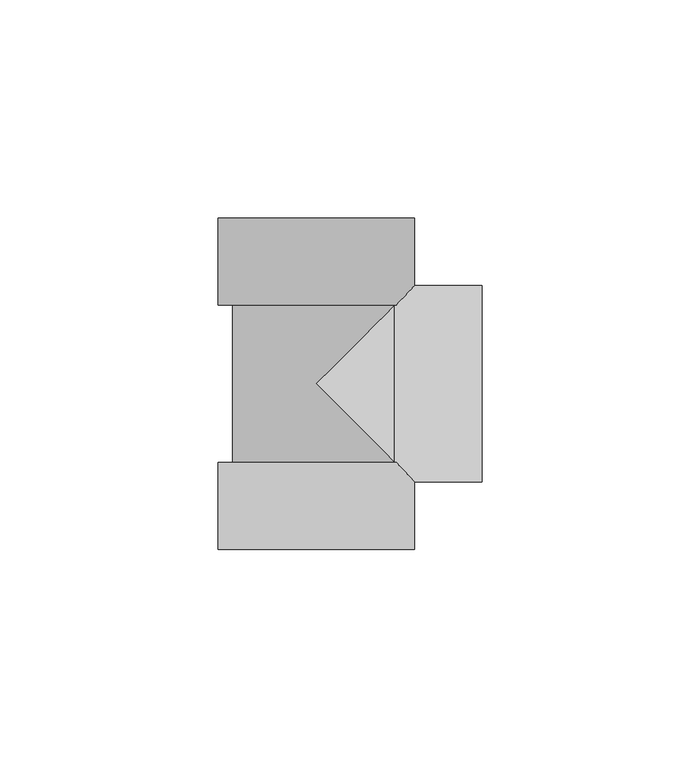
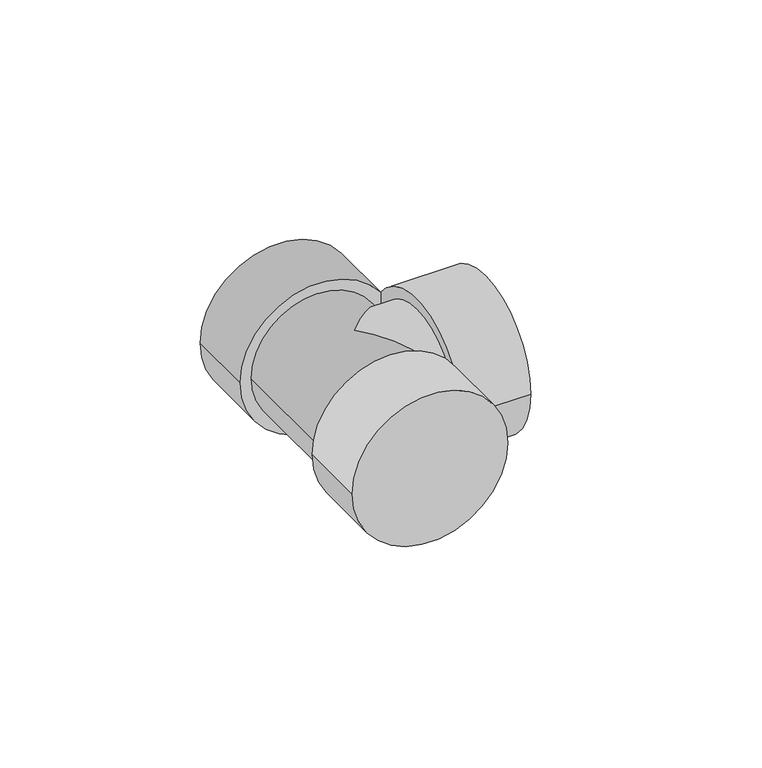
"""IFC4 building model written with IfcOpenShell, lengths in millimetres: pipe fitting geometry, 01011003 : Tes 90º."""

from ifc_helpers import new_model, si_unit, point, frame, origin, origin_2d, place, context, project, spatial, circle_curve, ellipse_curve, trimmed, segment, composite_curve, outline, extrude, source, transform, mapped, element, save
from ifc_brep_helpers import plane_surface, cylinder_surface, advanced_brep


def pipe_fitting_b89437e4(model_context):
    return source(origin(), model_context, "Body", "SolidModel", [
        advanced_brep(
        [(-19.125, 20.0, 0.0), (19.125, 20.0, 0.0), (-19.125, -20.0, 0.0), (19.125, -20.0, 0.0), (19.125, -19.125, 0.0), (0.0, 0.0, 19.125), (19.125, 19.125, 0.0), (0.0, 0.0, -19.125), (20.0, 19.125, 0.0), (20.0, -19.125, 0.0)],
        [
            (0, 1, circle_curve(frame((0.0, 20.0, 0.0), z_axis=(0.0, 1.0, 0.0), x_axis=(1.0, 0.0, 0.0)), 19.125)),
            (1, 0, circle_curve(frame((0.0, 20.0, 0.0), z_axis=(0.0, 1.0, 0.0), x_axis=(1.0, 0.0, 0.0)), 19.125)),
            (2, 3, circle_curve(frame((0.0, -20.0, 0.0), z_axis=(0.0, -1.0, 0.0), x_axis=(1.0, 0.0, 0.0)), 19.125)),
            (3, 2, circle_curve(frame((0.0, -20.0, 0.0), z_axis=(0.0, -1.0, 0.0), x_axis=(1.0, 0.0, 0.0)), 19.125)),
            (0, 2),
            (3, 4),
            (4, 5, ellipse_curve(frame((0.0, 0.0, 0.0), z_axis=(-0.7071067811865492, -0.7071067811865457, 0.0), x_axis=(-0.7071067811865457, 0.7071067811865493, 0.0)), 27.0468344, 19.125)),
            (5, 6, ellipse_curve(frame((0.0, 0.0, 0.0), z_axis=(-0.7071067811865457, 0.7071067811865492, 0.0), x_axis=(0.7071067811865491, 0.7071067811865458, 0.0)), 27.0468344, 19.125)),
            (6, 1),
            (6, 7, ellipse_curve(frame((0.0, 0.0, 0.0), z_axis=(-0.7071067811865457, 0.7071067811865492, 0.0), x_axis=(0.7071067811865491, 0.7071067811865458, 0.0)), 27.0468344, 19.125)),
            (7, 4, ellipse_curve(frame((0.0, 0.0, 0.0), z_axis=(-0.7071067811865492, -0.7071067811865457, 0.0), x_axis=(-0.7071067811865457, 0.7071067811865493, 0.0)), 27.0468344, 19.125)),
            (8, 9, circle_curve(frame((20.0, 0.0, 0.0), z_axis=(1.0, 0.0, 0.0), x_axis=(0.0, -1.0, 0.0)), 19.125)),
            (9, 8, circle_curve(frame((20.0, 0.0, 0.0), z_axis=(1.0, 0.0, 0.0), x_axis=(0.0, -1.0, 0.0)), 19.125)),
            (8, 6),
            (4, 9),
        ],
        [
            plane_surface(frame((0.0, 20.0, 0.0), z_axis=(0.0, 1.0, 0.0), x_axis=(0.0, 0.0, 1.0))),
            plane_surface(frame((0.0, -20.0, 0.0), z_axis=(0.0, -1.0, 0.0), x_axis=(0.0, 0.0, 1.0))),
            cylinder_surface(frame((0.0, 20.0, 0.0), z_axis=(0.0, 1.0, 0.0), x_axis=(1.0, 0.0, 0.0)), 19.125),
            plane_surface(frame((20.0, 0.0, 0.0), z_axis=(1.0, 0.0, 0.0), x_axis=(0.0, 0.0, 1.0))),
            cylinder_surface(frame((20.0, 0.0, 0.0), z_axis=(1.0, 0.0, 0.0), x_axis=(0.0, -1.0, 0.0)), 19.125),
        ],
        [
            (0, [[1, 2]]),
            (1, [[3, 4]]),
            (2, [[-1, 5, -4, 6, 7, 8, 9]]),
            (2, [[-2, -9, 10, 11, -6, -3, -5]]),
            (3, [[12, 13]]),
            (4, [[-12, 14, -8, -7, 15]]),
            (4, [[-13, -15, -11, -10, -14]]),
        ],
    ),
        extrude(outline(composite_curve([segment(trimmed(circle_curve(origin_2d(), 22.5), [point((0.0, -22.5))], [point((0.0, 22.5))], False, "CARTESIAN"), True, "CONTINUOUS"), segment(trimmed(circle_curve(origin_2d(), 22.5), [point((0.0, 22.5))], [point((0.0, -22.5))], False, "CARTESIAN"), True, "CONTINUOUS")], self_intersect=False)), frame((0.0, 18.0, 0.0), z_axis=(0.0, 1.0, 0.0), x_axis=(0.0, 0.0, 1.0)), (0.0, 0.0, 1.0), 20.0),
        extrude(outline(composite_curve([segment(trimmed(circle_curve(origin_2d(), 22.5), [point((0.0, 22.5))], [point((0.0, -22.5))], False, "CARTESIAN"), True, "CONTINUOUS"), segment(trimmed(circle_curve(origin_2d(), 22.5), [point((0.0, -22.5))], [point((0.0, 22.5))], False, "CARTESIAN"), True, "CONTINUOUS")], self_intersect=False)), frame((0.0, -38.0, 0.0), z_axis=(0.0, 1.0, 0.0), x_axis=(0.0, 0.0, 1.0)), (0.0, 0.0, 1.0), 20.0),
        extrude(outline(composite_curve([segment(trimmed(circle_curve(origin_2d(), 22.5), [point((22.5, 0.0))], [point((-22.5, 0.0))], False, "CARTESIAN"), True, "CONTINUOUS"), segment(trimmed(circle_curve(origin_2d(), 22.5), [point((-22.5, 0.0))], [point((22.5, 0.0))], False, "CARTESIAN"), True, "CONTINUOUS")], self_intersect=False)), frame((18.0, 0.0, 0.0), z_axis=(1.0, 0.0, 0.0), x_axis=(0.0, 1.0, 0.0)), (0.0, 0.0, 1.0), 20.0),
    ])


if __name__ == "__main__":
    model = new_model("IFC4")
    model_context = context("Model", 3, world=origin())
    ifc_project = project(units=[si_unit("LENGTHUNIT", "METRE", prefix="MILLI")], contexts=[model_context])
    site = spatial("IfcSite", under=ifc_project)
    building = spatial("IfcBuilding", under=site)
    placement = place(None, origin())
    pipe_fitting_shape = pipe_fitting_b89437e4(model_context)
    element("IfcPipeFitting", 1, ObjectType="01011003 : Tes 90º", at=placement, inside=building, context=model_context, shape_type="MappedRepresentation", body=[
        mapped(pipe_fitting_shape, transform((0.0, 0.0, 0.0), x_axis=(1.0, 0.0, 0.0), y_axis=(0.0, 1.0, 0.0), z_axis=(0.0, 0.0, 1.0))),
    ])
    save(model, "model.ifc")
